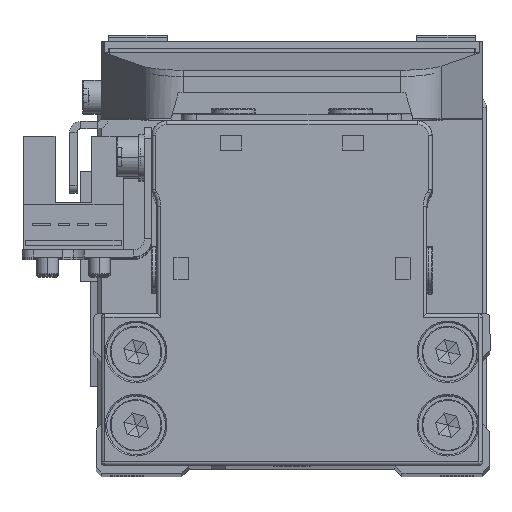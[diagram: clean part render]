
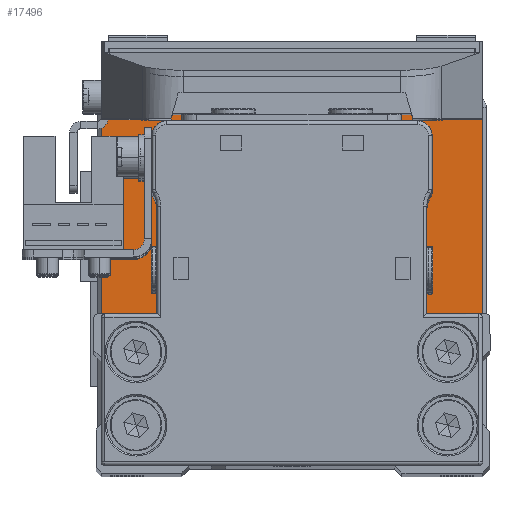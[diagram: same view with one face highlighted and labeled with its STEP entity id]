
A CAD part, top view. The second image highlights one B-rep face of the part: STEP entity #17496.
In plain terms, the highlighted planar face has unit normal (0, 0, 1).
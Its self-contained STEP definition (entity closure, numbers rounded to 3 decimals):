
#117 = FACE_BOUND ( 'NONE', #1040, .T. ) ;
#215 = AXIS2_PLACEMENT_3D ( 'NONE', #29765, #6371, #16760 ) ;
#418 = EDGE_CURVE ( 'NONE', #29355, #7972, #13958, .T. ) ;
#772 = VECTOR ( 'NONE', #28127, 1000. ) ;
#1040 = EDGE_LOOP ( 'NONE', ( #1354, #16894 ) ) ;
#1354 = ORIENTED_EDGE ( 'NONE', *, *, #22898, .T. ) ;
#1739 = LINE ( 'NONE', #12157, #19768 ) ;
#1817 = VERTEX_POINT ( 'NONE', #20114 ) ;
#1897 = DIRECTION ( 'NONE',  ( -1., 0., 0. ) ) ;
#1929 = AXIS2_PLACEMENT_3D ( 'NONE', #2592, #13001, #23417 ) ;
#2136 = AXIS2_PLACEMENT_3D ( 'NONE', #10154, #20558, #30979 ) ;
#2592 = CARTESIAN_POINT ( 'NONE',  ( -21.25, 9.95, 6.5 ) ) ;
#2754 = DIRECTION ( 'NONE',  ( 1., 0., 0. ) ) ;
#3004 = VERTEX_POINT ( 'NONE', #5961 ) ;
#3198 = DIRECTION ( 'NONE',  ( -1., 0., 0. ) ) ;
#3261 = DIRECTION ( 'NONE',  ( -1., 0., 0. ) ) ;
#3539 = DIRECTION ( 'NONE',  ( 0., 0., 1. ) ) ;
#3543 = CARTESIAN_POINT ( 'NONE',  ( 26., -23.95, 6.5 ) ) ;
#3955 = VERTEX_POINT ( 'NONE', #26877 ) ;
#4104 = AXIS2_PLACEMENT_3D ( 'NONE', #28555, #5155, #15559 ) ;
#4129 = CARTESIAN_POINT ( 'NONE',  ( -25., -24.95, 6.5 ) ) ;
#4249 = CIRCLE ( 'NONE', #23315, 1. ) ;
#4313 = CARTESIAN_POINT ( 'NONE',  ( 23.65, 19.95, 6.5 ) ) ;
#4690 = VERTEX_POINT ( 'NONE', #26074 ) ;
#4756 = ORIENTED_EDGE ( 'NONE', *, *, #9891, .T. ) ;
#5068 = ORIENTED_EDGE ( 'NONE', *, *, #20036, .T. ) ;
#5155 = DIRECTION ( 'NONE',  ( 0., 0., -1. ) ) ;
#5402 = ORIENTED_EDGE ( 'NONE', *, *, #23480, .T. ) ;
#5406 = DIRECTION ( 'NONE',  ( 0., 0., 1. ) ) ;
#5850 = ORIENTED_EDGE ( 'NONE', *, *, #32446, .T. ) ;
#5961 = CARTESIAN_POINT ( 'NONE',  ( -25., 24.95, 6.5 ) ) ;
#6271 = VERTEX_POINT ( 'NONE', #6331 ) ;
#6331 = CARTESIAN_POINT ( 'NONE',  ( 26., 23.95, 6.5 ) ) ;
#6371 = DIRECTION ( 'NONE',  ( 0., 0., 1. ) ) ;
#6453 = CIRCLE ( 'NONE', #25524, 2.4 ) ;
#7074 = CARTESIAN_POINT ( 'NONE',  ( -25., 24.95, 6.5 ) ) ;
#7302 = LINE ( 'NONE', #17706, #772 ) ;
#7924 = DIRECTION ( 'NONE',  ( 1., 0., 0. ) ) ;
#7972 = VERTEX_POINT ( 'NONE', #13796 ) ;
#7976 = FACE_OUTER_BOUND ( 'NONE', #29752, .T. ) ;
#9246 = DIRECTION ( 'NONE',  ( -1., 0., 0. ) ) ;
#9439 = EDGE_CURVE ( 'NONE', #32707, #4690, #11606, .T. ) ;
#9727 = CIRCLE ( 'NONE', #28793, 2.4 ) ;
#9891 = EDGE_CURVE ( 'NONE', #3955, #32707, #4249, .T. ) ;
#10154 = CARTESIAN_POINT ( 'NONE',  ( -21.25, 9.95, 6.5 ) ) ;
#10546 = FACE_BOUND ( 'NONE', #31163, .T. ) ;
#10635 = CARTESIAN_POINT ( 'NONE',  ( 21.25, 9.95, 6.5 ) ) ;
#10650 = CIRCLE ( 'NONE', #29748, 1. ) ;
#10796 = ORIENTED_EDGE ( 'NONE', *, *, #27240, .T. ) ;
#11008 = VERTEX_POINT ( 'NONE', #22895 ) ;
#11606 = LINE ( 'NONE', #22030, #27185 ) ;
#11609 = VERTEX_POINT ( 'NONE', #29291 ) ;
#12157 = CARTESIAN_POINT ( 'NONE',  ( -26., -23.95, 6.5 ) ) ;
#12275 = ORIENTED_EDGE ( 'NONE', *, *, #31442, .T. ) ;
#12283 = VERTEX_POINT ( 'NONE', #4313 ) ;
#13001 = DIRECTION ( 'NONE',  ( 0., 0., -1. ) ) ;
#13419 = CARTESIAN_POINT ( 'NONE',  ( -18.85, 19.95, 6.5 ) ) ;
#13796 = CARTESIAN_POINT ( 'NONE',  ( 23.65, 9.95, 6.5 ) ) ;
#13835 = VECTOR ( 'NONE', #17476, 1000. ) ;
#13905 = AXIS2_PLACEMENT_3D ( 'NONE', #20901, #31319, #7924 ) ;
#13945 = DIRECTION ( 'NONE',  ( 1., 0., 0. ) ) ;
#13946 = EDGE_CURVE ( 'NONE', #29865, #1817, #14162, .T. ) ;
#13958 = CIRCLE ( 'NONE', #20741, 2.4 ) ;
#14162 = CIRCLE ( 'NONE', #33269, 2.4 ) ;
#14389 = EDGE_LOOP ( 'NONE', ( #19434, #19426 ) ) ;
#14857 = CARTESIAN_POINT ( 'NONE',  ( 21.25, 9.95, 6.5 ) ) ;
#14934 = CIRCLE ( 'NONE', #215, 1. ) ;
#15038 = VERTEX_POINT ( 'NONE', #22918 ) ;
#15395 = EDGE_CURVE ( 'NONE', #12283, #15038, #9727, .T. ) ;
#15491 = EDGE_CURVE ( 'NONE', #7972, #29355, #6453, .T. ) ;
#15559 = DIRECTION ( 'NONE',  ( -1., 0., 0. ) ) ;
#15712 = CARTESIAN_POINT ( 'NONE',  ( 25., 23.95, 6.5 ) ) ;
#15802 = DIRECTION ( 'NONE',  ( 1., 0., 0. ) ) ;
#16162 = CARTESIAN_POINT ( 'NONE',  ( 21.25, 19.95, 6.5 ) ) ;
#16230 = CARTESIAN_POINT ( 'NONE',  ( -21.25, 19.95, 6.5 ) ) ;
#16635 = CIRCLE ( 'NONE', #1929, 2.4 ) ;
#16760 = DIRECTION ( 'NONE',  ( 1., 0., 0. ) ) ;
#16849 = CIRCLE ( 'NONE', #2136, 2.4 ) ;
#16894 = ORIENTED_EDGE ( 'NONE', *, *, #15395, .T. ) ;
#17019 = ORIENTED_EDGE ( 'NONE', *, *, #18560, .T. ) ;
#17476 = DIRECTION ( 'NONE',  ( -1., 0., 0. ) ) ;
#17496 = ADVANCED_FACE ( 'NONE', ( #117, #10546, #20955, #31371, #7976 ), #18385, .T. ) ;
#17687 = CARTESIAN_POINT ( 'NONE',  ( 25., 24.95, 6.5 ) ) ;
#17706 = CARTESIAN_POINT ( 'NONE',  ( 26., 23.95, 6.5 ) ) ;
#18385 = PLANE ( 'NONE',  #25263 ) ;
#18560 = EDGE_CURVE ( 'NONE', #19914, #11609, #16849, .T. ) ;
#18814 = CIRCLE ( 'NONE', #4104, 2.4 ) ;
#19426 = ORIENTED_EDGE ( 'NONE', *, *, #13946, .T. ) ;
#19434 = ORIENTED_EDGE ( 'NONE', *, *, #31718, .T. ) ;
#19737 = ORIENTED_EDGE ( 'NONE', *, *, #15491, .T. ) ;
#19768 = VECTOR ( 'NONE', #22580, 1000. ) ;
#19914 = VERTEX_POINT ( 'NONE', #28086 ) ;
#19954 = ORIENTED_EDGE ( 'NONE', *, *, #418, .T. ) ;
#20036 = EDGE_CURVE ( 'NONE', #4690, #22940, #28631, .T. ) ;
#20114 = CARTESIAN_POINT ( 'NONE',  ( -23.65, 19.95, 6.5 ) ) ;
#20558 = DIRECTION ( 'NONE',  ( 0., 0., -1. ) ) ;
#20741 = AXIS2_PLACEMENT_3D ( 'NONE', #10635, #21043, #31459 ) ;
#20901 = CARTESIAN_POINT ( 'NONE',  ( 25., -23.95, 6.5 ) ) ;
#20955 = FACE_BOUND ( 'NONE', #29950, .T. ) ;
#21043 = DIRECTION ( 'NONE',  ( 0., 0., -1. ) ) ;
#22030 = CARTESIAN_POINT ( 'NONE',  ( 25., -24.95, 6.5 ) ) ;
#22228 = CARTESIAN_POINT ( 'NONE',  ( 21.25, 19.95, 6.5 ) ) ;
#22580 = DIRECTION ( 'NONE',  ( 0., -1., 0. ) ) ;
#22895 = CARTESIAN_POINT ( 'NONE',  ( -26., 23.95, 6.5 ) ) ;
#22898 = EDGE_CURVE ( 'NONE', #15038, #12283, #26267, .T. ) ;
#22918 = CARTESIAN_POINT ( 'NONE',  ( 18.85, 19.95, 6.5 ) ) ;
#22940 = VERTEX_POINT ( 'NONE', #3543 ) ;
#23158 = VERTEX_POINT ( 'NONE', #17687 ) ;
#23315 = AXIS2_PLACEMENT_3D ( 'NONE', #26925, #3539, #13945 ) ;
#23417 = DIRECTION ( 'NONE',  ( -1., 0., 0. ) ) ;
#23480 = EDGE_CURVE ( 'NONE', #11008, #3955, #1739, .T. ) ;
#23710 = CARTESIAN_POINT ( 'NONE',  ( 18.85, 9.95, 6.5 ) ) ;
#24895 = EDGE_CURVE ( 'NONE', #23158, #3004, #30469, .T. ) ;
#25263 = AXIS2_PLACEMENT_3D ( 'NONE', #28811, #5406, #15802 ) ;
#25291 = DIRECTION ( 'NONE',  ( 0., 0., -1. ) ) ;
#25524 = AXIS2_PLACEMENT_3D ( 'NONE', #14857, #25291, #1897 ) ;
#26074 = CARTESIAN_POINT ( 'NONE',  ( 25., -24.95, 6.5 ) ) ;
#26144 = DIRECTION ( 'NONE',  ( 0., 0., 1. ) ) ;
#26267 = CIRCLE ( 'NONE', #30643, 2.4 ) ;
#26592 = DIRECTION ( 'NONE',  ( 0., 0., -1. ) ) ;
#26648 = DIRECTION ( 'NONE',  ( 0., 0., -1. ) ) ;
#26877 = CARTESIAN_POINT ( 'NONE',  ( -26., -23.95, 6.5 ) ) ;
#26925 = CARTESIAN_POINT ( 'NONE',  ( -25., -23.95, 6.5 ) ) ;
#27185 = VECTOR ( 'NONE', #32444, 1000. ) ;
#27240 = EDGE_CURVE ( 'NONE', #3004, #11008, #14934, .T. ) ;
#28086 = CARTESIAN_POINT ( 'NONE',  ( -23.65, 9.95, 6.5 ) ) ;
#28127 = DIRECTION ( 'NONE',  ( 0., 1., 0. ) ) ;
#28555 = CARTESIAN_POINT ( 'NONE',  ( -21.25, 19.95, 6.5 ) ) ;
#28631 = CIRCLE ( 'NONE', #13905, 1. ) ;
#28793 = AXIS2_PLACEMENT_3D ( 'NONE', #22228, #32646, #9246 ) ;
#28811 = CARTESIAN_POINT ( 'NONE',  ( 0., 0., 6.5 ) ) ;
#29291 = CARTESIAN_POINT ( 'NONE',  ( -18.85, 9.95, 6.5 ) ) ;
#29355 = VERTEX_POINT ( 'NONE', #23710 ) ;
#29748 = AXIS2_PLACEMENT_3D ( 'NONE', #15712, #26144, #2754 ) ;
#29752 = EDGE_LOOP ( 'NONE', ( #10796, #5402, #4756, #31754, #5068, #12275, #32978, #33430 ) ) ;
#29765 = CARTESIAN_POINT ( 'NONE',  ( -25., 23.95, 6.5 ) ) ;
#29865 = VERTEX_POINT ( 'NONE', #13419 ) ;
#29950 = EDGE_LOOP ( 'NONE', ( #17019, #5850 ) ) ;
#30469 = LINE ( 'NONE', #7074, #13835 ) ;
#30643 = AXIS2_PLACEMENT_3D ( 'NONE', #16162, #26592, #3198 ) ;
#30979 = DIRECTION ( 'NONE',  ( -1., 0., 0. ) ) ;
#31163 = EDGE_LOOP ( 'NONE', ( #19954, #19737 ) ) ;
#31319 = DIRECTION ( 'NONE',  ( 0., 0., 1. ) ) ;
#31371 = FACE_BOUND ( 'NONE', #14389, .T. ) ;
#31442 = EDGE_CURVE ( 'NONE', #22940, #6271, #7302, .T. ) ;
#31459 = DIRECTION ( 'NONE',  ( -1., 0., 0. ) ) ;
#31718 = EDGE_CURVE ( 'NONE', #1817, #29865, #18814, .T. ) ;
#31754 = ORIENTED_EDGE ( 'NONE', *, *, #9439, .T. ) ;
#32444 = DIRECTION ( 'NONE',  ( 1., 0., 0. ) ) ;
#32446 = EDGE_CURVE ( 'NONE', #11609, #19914, #16635, .T. ) ;
#32464 = EDGE_CURVE ( 'NONE', #6271, #23158, #10650, .T. ) ;
#32646 = DIRECTION ( 'NONE',  ( 0., 0., -1. ) ) ;
#32707 = VERTEX_POINT ( 'NONE', #4129 ) ;
#32978 = ORIENTED_EDGE ( 'NONE', *, *, #32464, .T. ) ;
#33269 = AXIS2_PLACEMENT_3D ( 'NONE', #16230, #26648, #3261 ) ;
#33430 = ORIENTED_EDGE ( 'NONE', *, *, #24895, .T. ) ;
